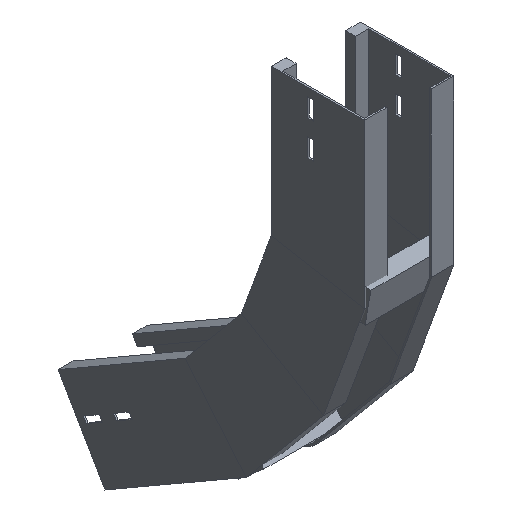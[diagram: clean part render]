
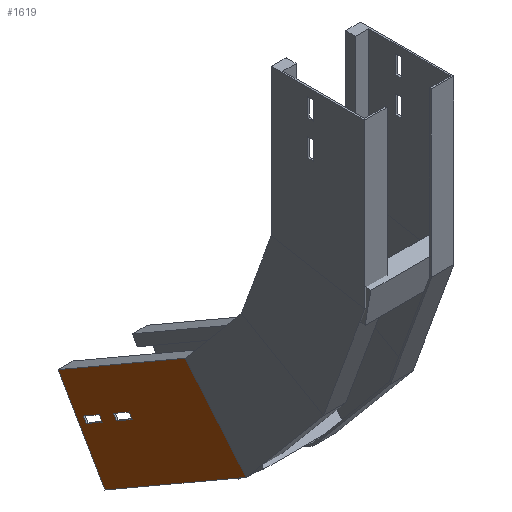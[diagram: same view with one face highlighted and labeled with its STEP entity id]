
A CAD part, isometric view. The second image highlights one B-rep face of the part: STEP entity #1619.
In plain terms, the highlighted planar face has unit normal (-1, 0, 0) as drawn and (1, 0, 0) by its records, which use the part's own axes.
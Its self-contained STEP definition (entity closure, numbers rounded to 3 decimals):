
#3 = CARTESIAN_POINT ( 'NONE',  ( 0., 61.5, -9.835 ) ) ;
#12 = CARTESIAN_POINT ( 'NONE',  ( 0., 0., 0. ) ) ;
#46 = VECTOR ( 'NONE', #159, 1000. ) ;
#47 = DIRECTION ( 'NONE',  ( 0., 0., 1. ) ) ;
#49 = VERTEX_POINT ( 'NONE', #1642 ) ;
#66 = ORIENTED_EDGE ( 'NONE', *, *, #462, .T. ) ;
#67 = VERTEX_POINT ( 'NONE', #1504 ) ;
#68 = CARTESIAN_POINT ( 'NONE',  ( 0., 61.5, -51.505 ) ) ;
#89 = CARTESIAN_POINT ( 'NONE',  ( 0., 68.5, -9.835 ) ) ;
#107 = CARTESIAN_POINT ( 'NONE',  ( 0., 0., 0. ) ) ;
#128 = VECTOR ( 'NONE', #1568, 1000. ) ;
#150 = VERTEX_POINT ( 'NONE', #959 ) ;
#151 = CARTESIAN_POINT ( 'NONE',  ( 0., 61.5, -9.835 ) ) ;
#159 = DIRECTION ( 'NONE',  ( 0., 0., -1. ) ) ;
#164 = VERTEX_POINT ( 'NONE', #68 ) ;
#180 = VECTOR ( 'NONE', #1150, 1000. ) ;
#185 = ORIENTED_EDGE ( 'NONE', *, *, #418, .F. ) ;
#201 = ORIENTED_EDGE ( 'NONE', *, *, #1595, .T. ) ;
#203 = VERTEX_POINT ( 'NONE', #847 ) ;
#209 = PLANE ( 'NONE',  #1268 ) ;
#232 = VERTEX_POINT ( 'NONE', #1130 ) ;
#281 = CARTESIAN_POINT ( 'NONE',  ( 0., 68.5, -51.505 ) ) ;
#287 = EDGE_LOOP ( 'NONE', ( #1239, #867, #1322, #185 ) ) ;
#293 = ORIENTED_EDGE ( 'NONE', *, *, #572, .T. ) ;
#299 = EDGE_CURVE ( 'NONE', #996, #736, #1115, .T. ) ;
#302 = LINE ( 'NONE', #1211, #1051 ) ;
#335 = DIRECTION ( 'NONE',  ( -1., 0., 0. ) ) ;
#348 = VERTEX_POINT ( 'NONE', #762 ) ;
#353 = EDGE_CURVE ( 'NONE', #1409, #1199, #628, .T. ) ;
#358 = CARTESIAN_POINT ( 'NONE',  ( 0., 68.5, -9.835 ) ) ;
#361 = LINE ( 'NONE', #1522, #1603 ) ;
#406 = CARTESIAN_POINT ( 'NONE',  ( 0., 112.5, 0. ) ) ;
#409 = DIRECTION ( 'NONE',  ( 0., 0., -1. ) ) ;
#418 = EDGE_CURVE ( 'NONE', #348, #1199, #1161, .T. ) ;
#434 = LINE ( 'NONE', #557, #580 ) ;
#462 = EDGE_CURVE ( 'NONE', #67, #49, #361, .T. ) ;
#480 = EDGE_CURVE ( 'NONE', #150, #609, #920, .T. ) ;
#540 = CARTESIAN_POINT ( 'NONE',  ( 0., 68.5, -9.835 ) ) ;
#541 = ORIENTED_EDGE ( 'NONE', *, *, #299, .T. ) ;
#557 = CARTESIAN_POINT ( 'NONE',  ( 0., 68.5, -51.505 ) ) ;
#572 = EDGE_CURVE ( 'NONE', #203, #67, #1181, .T. ) ;
#580 = VECTOR ( 'NONE', #1608, 1000. ) ;
#606 = VECTOR ( 'NONE', #409, 1000. ) ;
#609 = VERTEX_POINT ( 'NONE', #151 ) ;
#610 = CARTESIAN_POINT ( 'NONE',  ( 0., 33.621, -190.672 ) ) ;
#613 = VECTOR ( 'NONE', #1262, 1000. ) ;
#628 = LINE ( 'NONE', #1022, #613 ) ;
#642 = ORIENTED_EDGE ( 'NONE', *, *, #1109, .T. ) ;
#677 = LINE ( 'NONE', #406, #46 ) ;
#718 = ORIENTED_EDGE ( 'NONE', *, *, #480, .T. ) ;
#736 = VERTEX_POINT ( 'NONE', #1102 ) ;
#762 = CARTESIAN_POINT ( 'NONE',  ( 0., 112.5, -176.763 ) ) ;
#763 = LINE ( 'NONE', #358, #1516 ) ;
#797 = EDGE_CURVE ( 'NONE', #1409, #232, #994, .T. ) ;
#802 = EDGE_LOOP ( 'NONE', ( #1073, #293, #66, #201 ) ) ;
#847 = CARTESIAN_POINT ( 'NONE',  ( 0., 68.5, -51.505 ) ) ;
#865 = EDGE_CURVE ( 'NONE', #609, #996, #763, .T. ) ;
#867 = ORIENTED_EDGE ( 'NONE', *, *, #797, .F. ) ;
#920 = LINE ( 'NONE', #3, #128 ) ;
#944 = LINE ( 'NONE', #1066, #1627 ) ;
#959 = CARTESIAN_POINT ( 'NONE',  ( 0., 61.5, -31.835 ) ) ;
#980 = FACE_BOUND ( 'NONE', #1650, .T. ) ;
#994 = LINE ( 'NONE', #107, #1132 ) ;
#996 = VERTEX_POINT ( 'NONE', #540 ) ;
#1022 = CARTESIAN_POINT ( 'NONE',  ( 0., 0., 0. ) ) ;
#1030 = EDGE_CURVE ( 'NONE', #232, #348, #677, .T. ) ;
#1051 = VECTOR ( 'NONE', #47, 1000. ) ;
#1066 = CARTESIAN_POINT ( 'NONE',  ( 0., 68.5, -31.835 ) ) ;
#1073 = ORIENTED_EDGE ( 'NONE', *, *, #1606, .T. ) ;
#1102 = CARTESIAN_POINT ( 'NONE',  ( 0., 68.5, -31.835 ) ) ;
#1109 = EDGE_CURVE ( 'NONE', #736, #150, #944, .T. ) ;
#1115 = LINE ( 'NONE', #89, #1436 ) ;
#1130 = CARTESIAN_POINT ( 'NONE',  ( 0., 112.5, 0. ) ) ;
#1132 = VECTOR ( 'NONE', #1141, 1000. ) ;
#1141 = DIRECTION ( 'NONE',  ( 0., 1., 0. ) ) ;
#1150 = DIRECTION ( 'NONE',  ( 0., -0.985, -0.174 ) ) ;
#1161 = LINE ( 'NONE', #610, #180 ) ;
#1181 = LINE ( 'NONE', #281, #606 ) ;
#1199 = VERTEX_POINT ( 'NONE', #1253 ) ;
#1201 = DIRECTION ( 'NONE',  ( 0., -1., 0. ) ) ;
#1211 = CARTESIAN_POINT ( 'NONE',  ( 0., 61.5, -51.505 ) ) ;
#1239 = ORIENTED_EDGE ( 'NONE', *, *, #1030, .F. ) ;
#1253 = CARTESIAN_POINT ( 'NONE',  ( 0., 0., -196.6 ) ) ;
#1260 = CARTESIAN_POINT ( 'NONE',  ( 0., 0., 0. ) ) ;
#1262 = DIRECTION ( 'NONE',  ( 0., 0., -1. ) ) ;
#1268 = AXIS2_PLACEMENT_3D ( 'NONE', #1260, #335, #1501 ) ;
#1272 = DIRECTION ( 'NONE',  ( 0., 1., 0. ) ) ;
#1322 = ORIENTED_EDGE ( 'NONE', *, *, #353, .T. ) ;
#1334 = ORIENTED_EDGE ( 'NONE', *, *, #865, .T. ) ;
#1379 = DIRECTION ( 'NONE',  ( 0., 0., -1. ) ) ;
#1402 = DIRECTION ( 'NONE',  ( 0., -1., 0. ) ) ;
#1409 = VERTEX_POINT ( 'NONE', #12 ) ;
#1436 = VECTOR ( 'NONE', #1379, 1000. ) ;
#1501 = DIRECTION ( 'NONE',  ( 0., 0., 1. ) ) ;
#1504 = CARTESIAN_POINT ( 'NONE',  ( 0., 68.5, -73.505 ) ) ;
#1516 = VECTOR ( 'NONE', #1272, 1000. ) ;
#1520 = FACE_OUTER_BOUND ( 'NONE', #287, .T. ) ;
#1522 = CARTESIAN_POINT ( 'NONE',  ( 0., 68.5, -73.505 ) ) ;
#1568 = DIRECTION ( 'NONE',  ( 0., 0., 1. ) ) ;
#1595 = EDGE_CURVE ( 'NONE', #49, #164, #302, .T. ) ;
#1603 = VECTOR ( 'NONE', #1402, 1000. ) ;
#1606 = EDGE_CURVE ( 'NONE', #164, #203, #434, .T. ) ;
#1608 = DIRECTION ( 'NONE',  ( 0., 1., 0. ) ) ;
#1619 = ADVANCED_FACE ( 'NONE', ( #1658, #1520, #980 ), #209, .F. ) ;
#1627 = VECTOR ( 'NONE', #1201, 1000. ) ;
#1642 = CARTESIAN_POINT ( 'NONE',  ( 0., 61.5, -73.505 ) ) ;
#1650 = EDGE_LOOP ( 'NONE', ( #1334, #541, #642, #718 ) ) ;
#1658 = FACE_BOUND ( 'NONE', #802, .T. ) ;
